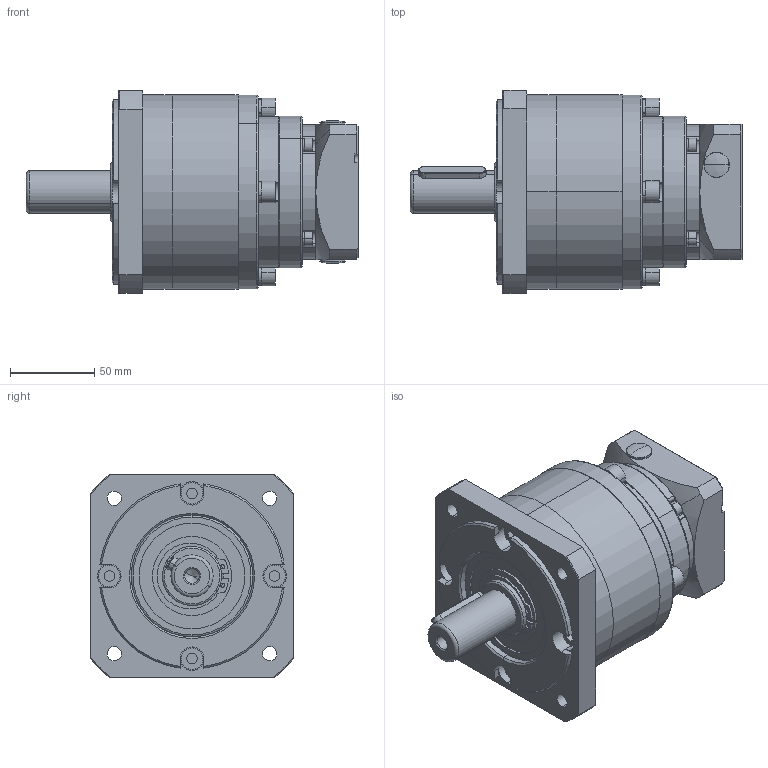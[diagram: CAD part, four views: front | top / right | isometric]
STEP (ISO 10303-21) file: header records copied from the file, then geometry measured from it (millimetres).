
FILE_DESCRIPTION (( 'STEP AP203' ), '1' );
FILE_NAME ('PF115L2-i-P2-S2-19-40-70-90-M5.step', '2020-03-23T09:05:43', ( '个人用户' ), ( '微软中国' ), 'SwSTEP 2.0', 'SolidWorks 2018', '' );
FILE_SCHEMA (( 'CONFIG_CONTROL_DESIGN' ));
Length unit declared in the file: millimetre
Products named in the file (1): PF115L2-i-P2-S2-19-40-70-90-M5
Bounding box: 196.5 x 120 x 120 mm (x, y, z)
Volume: 964466.6 mm3; surface area: 266129.9 mm2
Topology: 48 solids, 48 shells, 1369 faces, 3206 edges, 2027 vertices
Faces by surface type: cylinder 493, plane 397, sphere 170, torus 155, cone 152, bspline 2
Entity records: 45219 total; most frequent: CARTESIAN_POINT 12909, DIRECTION 7280, ORIENTED_EDGE 6348, EDGE_CURVE 3174, AXIS2_PLACEMENT_3D 3074, VERTEX_POINT 2027, CIRCLE 1706, EDGE_LOOP 1597
